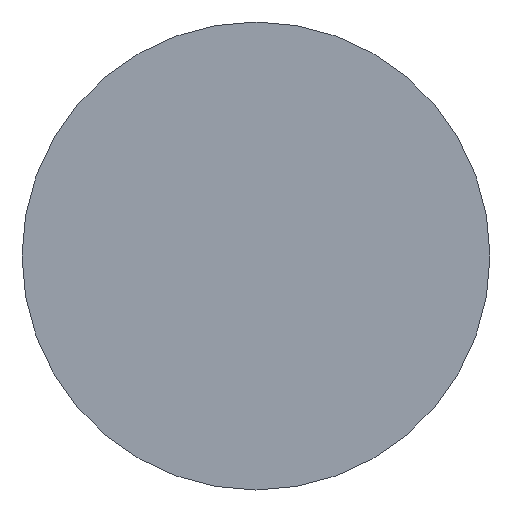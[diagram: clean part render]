
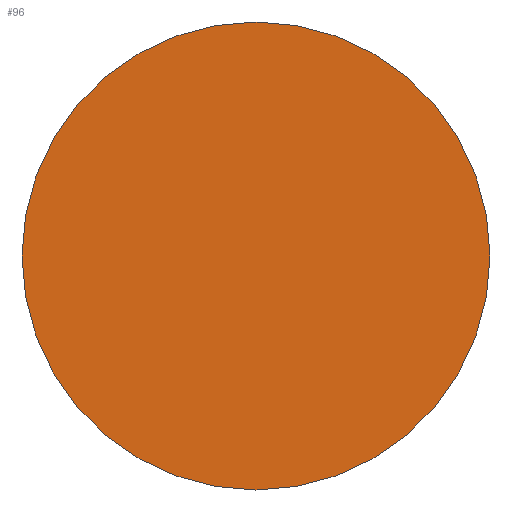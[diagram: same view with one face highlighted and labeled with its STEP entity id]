
A CAD part, left-side view. The second image highlights one B-rep face of the part: STEP entity #96.
In plain terms, the highlighted planar face has unit normal (-1, 0, 0).
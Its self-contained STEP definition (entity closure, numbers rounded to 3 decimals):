
#7 = AXIS2_PLACEMENT_3D ( 'NONE', #72, #70, #69 ) ;
#11 = AXIS2_PLACEMENT_3D ( 'NONE', #75, #74, #73 ) ;
#15 = EDGE_CURVE ( 'NONE', #91, #85, #130, .T. ) ;
#17 = AXIS2_PLACEMENT_3D ( 'NONE', #51, #49, #48 ) ;
#18 = EDGE_CURVE ( 'NONE', #85, #91, #111, .T. ) ;
#48 = DIRECTION ( 'NONE',  ( 0., 0., 1. ) ) ;
#49 = DIRECTION ( 'NONE',  ( -1., 0., 0. ) ) ;
#50 = PLANE ( 'NONE',  #17 ) ;
#51 = CARTESIAN_POINT ( 'NONE',  ( -324.5, 0., 0. ) ) ;
#62 = CARTESIAN_POINT ( 'NONE',  ( -324.5, 0., -5.5 ) ) ;
#63 = CARTESIAN_POINT ( 'NONE',  ( -324.5, 0., 5.5 ) ) ;
#69 = DIRECTION ( 'NONE',  ( 0., 0., 1. ) ) ;
#70 = DIRECTION ( 'NONE',  ( -1., 0., 0. ) ) ;
#72 = CARTESIAN_POINT ( 'NONE',  ( -324.5, 0., 0. ) ) ;
#73 = DIRECTION ( 'NONE',  ( 0., 0., 1. ) ) ;
#74 = DIRECTION ( 'NONE',  ( -1., 0., 0. ) ) ;
#75 = CARTESIAN_POINT ( 'NONE',  ( -324.5, 0., 0. ) ) ;
#85 = VERTEX_POINT ( 'NONE', #63 ) ;
#91 = VERTEX_POINT ( 'NONE', #62 ) ;
#96 = ADVANCED_FACE ( 'NONE', ( #108 ), #50, .T. ) ;
#98 = EDGE_LOOP ( 'NONE', ( #115, #113 ) ) ;
#108 = FACE_OUTER_BOUND ( 'NONE', #98, .T. ) ;
#111 = CIRCLE ( 'NONE', #7, 5.5 ) ;
#113 = ORIENTED_EDGE ( 'NONE', *, *, #15, .T. ) ;
#115 = ORIENTED_EDGE ( 'NONE', *, *, #18, .T. ) ;
#130 = CIRCLE ( 'NONE', #11, 5.5 ) ;
